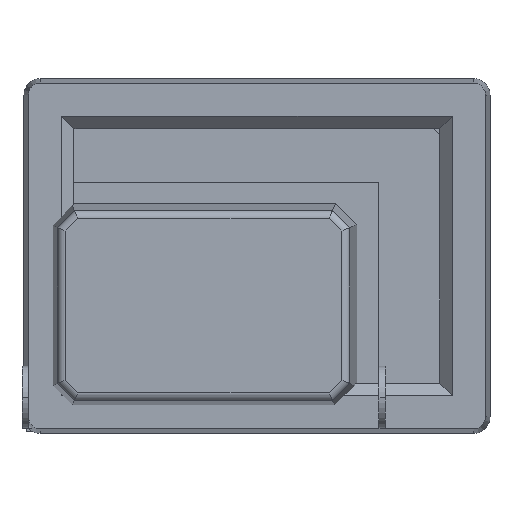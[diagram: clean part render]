
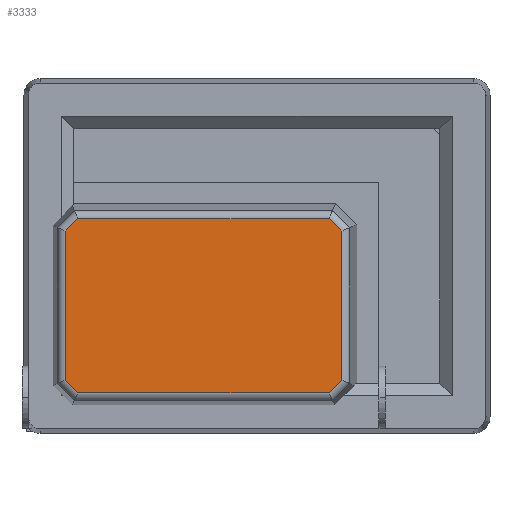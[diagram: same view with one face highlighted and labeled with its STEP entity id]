
A CAD part, top view. The second image highlights one B-rep face of the part: STEP entity #3333.
In plain terms, the highlighted planar face has unit normal (0, 0, 1).
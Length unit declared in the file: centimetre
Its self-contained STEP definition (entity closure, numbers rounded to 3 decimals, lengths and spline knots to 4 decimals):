
#1365=VERTEX_POINT('',#10681);
#1366=VERTEX_POINT('',#10683);
#1368=VERTEX_POINT('',#10689);
#1370=VERTEX_POINT('',#10695);
#1372=VERTEX_POINT('',#10701);
#1374=VERTEX_POINT('',#10707);
#1376=VERTEX_POINT('',#10713);
#1378=VERTEX_POINT('',#10719);
#1784=EDGE_CURVE('',#1365,#1366,#4006,.T.);
#1787=EDGE_CURVE('',#1366,#1368,#4008,.T.);
#1790=EDGE_CURVE('',#1368,#1370,#4010,.T.);
#1793=EDGE_CURVE('',#1370,#1372,#4012,.T.);
#1796=EDGE_CURVE('',#1372,#1374,#4014,.T.);
#1799=EDGE_CURVE('',#1374,#1376,#4016,.T.);
#1802=EDGE_CURVE('',#1376,#1378,#4018,.T.);
#1805=EDGE_CURVE('',#1378,#1365,#4020,.T.);
#2642=ORIENTED_EDGE('',*,*,#1784,.F.);
#2643=ORIENTED_EDGE('',*,*,#1805,.F.);
#2644=ORIENTED_EDGE('',*,*,#1802,.F.);
#2645=ORIENTED_EDGE('',*,*,#1799,.F.);
#2646=ORIENTED_EDGE('',*,*,#1796,.F.);
#2647=ORIENTED_EDGE('',*,*,#1793,.F.);
#2648=ORIENTED_EDGE('',*,*,#1790,.F.);
#2649=ORIENTED_EDGE('',*,*,#1787,.F.);
#2958=EDGE_LOOP('',(#2642,#2643,#2644,#2645,#2646,#2647,#2648,#2649));
#3153=FACE_BOUND('',#2958,.T.);
#3333=ADVANCED_FACE('',(#3153),#7950,.T.);
#4006=LINE('',#10682,#7720);
#4008=LINE('',#10688,#7722);
#4010=LINE('',#10694,#7724);
#4012=LINE('',#10700,#7726);
#4014=LINE('',#10706,#7728);
#4016=LINE('',#10712,#7730);
#4018=LINE('',#10718,#7732);
#4020=LINE('',#10723,#7734);
#7159=AXIS2_PLACEMENT_3D('',#10742,#9150,$);
#7720=VECTOR('',#9094,1.);
#7722=VECTOR('',#9100,1.);
#7724=VECTOR('',#9106,1.);
#7726=VECTOR('',#9112,1.);
#7728=VECTOR('',#9118,1.);
#7730=VECTOR('',#9124,1.);
#7732=VECTOR('',#9130,1.);
#7734=VECTOR('',#9136,1.);
#7950=PLANE('',#7159);
#9094=DIRECTION('',(0.,-1.,0.));
#9100=DIRECTION('',(-0.707,-0.707,0.));
#9106=DIRECTION('',(-1.,0.,0.));
#9112=DIRECTION('',(-0.707,0.707,0.));
#9118=DIRECTION('',(0.,1.,0.));
#9124=DIRECTION('',(0.707,0.707,0.));
#9130=DIRECTION('',(1.,0.,0.));
#9136=DIRECTION('',(0.707,-0.707,0.));
#9150=DIRECTION('',(0.,0.,1.));
#10681=CARTESIAN_POINT('',(7.8627,4.9593,2.835));
#10682=CARTESIAN_POINT('',(7.8627,2.3164,2.835));
#10683=CARTESIAN_POINT('',(7.8627,1.2179,2.835));
#10688=CARTESIAN_POINT('',(6.2895,-0.3558,2.835));
#10689=CARTESIAN_POINT('',(7.5498,0.9049,2.835));
#10694=CARTESIAN_POINT('',(3.2955,0.9049,2.835));
#10695=CARTESIAN_POINT('',(1.2382,0.9049,2.835));
#10700=CARTESIAN_POINT('',(1.4003,0.7427,2.835));
#10701=CARTESIAN_POINT('',(0.9253,1.2179,2.835));
#10706=CARTESIAN_POINT('',(0.9253,2.3164,2.835));
#10707=CARTESIAN_POINT('',(0.9253,4.9593,2.835));
#10712=CARTESIAN_POINT('',(0.6282,4.6621,2.835));
#10713=CARTESIAN_POINT('',(1.2382,5.2723,2.835));
#10718=CARTESIAN_POINT('',(3.2955,5.2723,2.835));
#10719=CARTESIAN_POINT('',(7.5498,5.2723,2.835));
#10723=CARTESIAN_POINT('',(7.0616,5.7606,2.835));
#10742=CARTESIAN_POINT('',(4.394,3.0886,2.835));
